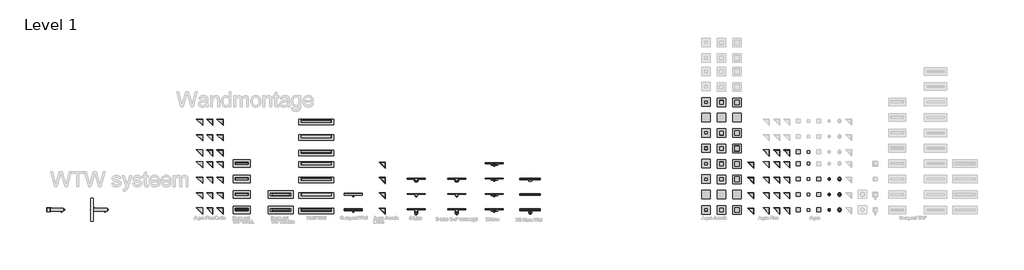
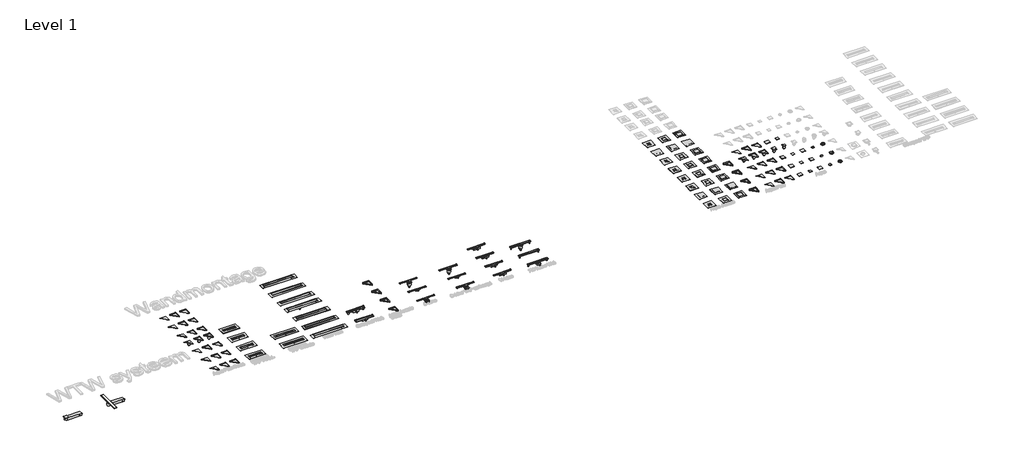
# One storey, part 1 of 23: 129 sanitary terminals, 5 coverings.
"""IFC4 building model written with IfcOpenShell, lengths in millimetres."""

from ifc_helpers import new_model, si_unit, origin, place, context, project, spatial, transform, mapped, element, save
from components import covering_52c8488e, covering_6938fe76, sanitary_terminal_5b34698b, sanitary_terminal_2ebfcd1c, sanitary_terminal_eb8b4586, sanitary_terminal_f8d560c6, sanitary_terminal_9a77729b, sanitary_terminal_fcf2dfa3, sanitary_terminal_2194107e, sanitary_terminal_dfeab300, sanitary_terminal_ecf4810a, sanitary_terminal_5c7f7aa6, sanitary_terminal_e52f65bd, sanitary_terminal_4a5be464, sanitary_terminal_dddee02a, sanitary_terminal_49c4bee3, sanitary_terminal_14ebe62b, sanitary_terminal_cf954fec, sanitary_terminal_cd1ec674, black_glass_10x10_94a9755f, black_glass_15x15_4ec12fde, black_glass_20x20_2d4f7b62, compact_taf_wall_cdf960c3, compact_taf_wall_d19b2d83, compact_taf_wall_0f2e0b1c, compact_taf_wall_d03a32f8, compact_wall_94ad205f, compact_wall_831ec387, m_line_c0a41354, m_line_9a3da5f7, m2_trap_body_7347115e, multi_taf_wall_horizontal_outlet_high_50mm_fefc41ae, multi_taf_wall_horizontal_outlet_low_40mm_08ca72b8, s_line_b4ae6951, s_line_high_d0269925, tile_10x10_495e2d9a, tile_15x15_625d1f21, tile_20x20_1db265bf, wtw_aqua_157d25cd, wtw_multi_011bf3f1, xs_nano_wall_a90b67c6, xs_nano_wall_with_m2_vertical_outlet_9d345bf4

model = new_model("IFC4")

# Units and contexts
model_context = context("Model", 3, world=origin())
ifc_project = project(units=[si_unit("LENGTHUNIT", "METRE", prefix="MILLI")], contexts=[model_context])

# Site, building, storey
site = spatial("IfcSite", under=ifc_project)
building = spatial("IfcBuilding", under=site)
storey = spatial("IfcBuildingStorey", under=building, Name="Level 1", Elevation=0.0)

# Coverings
placement = place(None, origin())
covering_shape = covering_52c8488e(model_context)
element("IfcCovering", 1, ObjectType="Z_DO_NOT_USE_NLRS_PF_52_UN_Extension Set_Easydrain : NLRS_PLF_52_UN_Easy Drain verlengset_Easydrain", at=placement, inside=storey, context=model_context, shape_type="MappedRepresentation", body=[
    mapped(covering_shape, transform((8171.8477418, 7700.0, 0.0), x_axis=(1.0, 0.0, 0.0), y_axis=(0.0, 1.0, 0.0), z_axis=(0.0, 0.0, 1.0))),
])
element("IfcCovering", 2, ObjectType="Z_DO_NOT_USE_NLRS_PF_52_UN_Extension Set_Easydrain : NLRS_PLF_52_UN_Easy Drain verlengset_Easydrain", at=placement, inside=storey, context=model_context, shape_type="MappedRepresentation", body=[
    mapped(covering_shape, transform((8171.8477418, 8300.0, 0.0), x_axis=(1.0, 0.0, 0.0), y_axis=(0.0, 1.0, 0.0), z_axis=(0.0, 0.0, 1.0))),
])
element("IfcCovering", 3, ObjectType="Z_DO_NOT_USE_NLRS_PF_52_UN_Extension Set_Easydrain : NLRS_PLF_52_UN_Easy Drain verlengset_Easydrain", at=placement, inside=storey, context=model_context, shape_type="MappedRepresentation", body=[
    mapped(covering_shape, transform((8171.8477418, 8900.0, 0.0), x_axis=(1.0, 0.0, 0.0), y_axis=(0.0, 1.0, 0.0), z_axis=(0.0, 0.0, 1.0))),
])
element("IfcCovering", 4, ObjectType="Z_DO_NOT_USE_NLRS_PF_52_UN_Extension Set_Easydrain : NLRS_PLF_52_UN_Easy Drain verlengset_Easydrain", at=placement, inside=storey, context=model_context, shape_type="MappedRepresentation", body=[
    mapped(covering_shape, transform((8171.8477418, 9500.0, 0.0), x_axis=(1.0, 0.0, 0.0), y_axis=(0.0, 1.0, 0.0), z_axis=(0.0, 0.0, 1.0))),
])
covering_2_shape = covering_6938fe76(model_context)
element("IfcCovering", 5, ObjectType="Z_DO_NOT_USE_NLRS_PF_52_UN_Multi Grate_Easydrain : 1 - Fixt", at=placement, inside=storey, context=model_context, shape_type="MappedRepresentation", body=[
    mapped(covering_2_shape, transform((2565.0, 7700.0, 70.0), x_axis=(0.0, 1.0, 0.0), y_axis=(-1.0, 0.0, 0.0), z_axis=(0.0, 0.0, 1.0))),
])

# Sanitary terminals
sanitary_terminal_shape = sanitary_terminal_5b34698b(model_context)
element("IfcSanitaryTerminal", 6, ObjectType="NLRS_PF_52_UN_Aqua Jewels Delta_in_uitloop_Easydrain : Aqua Jewels Delta zijuitloop hoog 50mm, zij-ingang 40mm", at=placement, inside=storey, context=model_context, shape_type="MappedRepresentation", body=[
    mapped(sanitary_terminal_shape, transform((28300.0, 8900.0, 0.0), x_axis=(1.0, 0.0, 0.0), y_axis=(0.0, 1.0, 0.0), z_axis=(0.0, 0.0, 1.0))),
])
element("IfcSanitaryTerminal", 7, ObjectType="NLRS_PF_52_UN_Aqua Jewels Delta_in_uitloop_Easydrain : Aqua Jewels Delta zijuitloop hoog 50mm, zij-ingang 40mm", at=placement, inside=storey, context=model_context, shape_type="MappedRepresentation", body=[
    mapped(sanitary_terminal_shape, transform((13940.0, 8900.0, 0.0), x_axis=(1.0, 0.0, 0.0), y_axis=(0.0, 1.0, 0.0), z_axis=(0.0, 0.0, 1.0))),
])
element("IfcSanitaryTerminal", 8, ObjectType="NLRS_PF_52_UN_Aqua Jewels Delta_uitloop_Easydrain : Aqua Jewels Delta horizontal outlet low 40mm", at=placement, inside=storey, context=model_context, shape_type="MappedRepresentation", body=[
    mapped(sanitary_terminal_shape, transform((28300.0, 7700.0, 0.0), x_axis=(1.0, 0.0, 0.0), y_axis=(0.0, 1.0, 0.0), z_axis=(0.0, 0.0, 1.0))),
])
element("IfcSanitaryTerminal", 9, ObjectType="NLRS_PF_52_UN_Aqua Jewels Delta_uitloop_Easydrain : Aqua Jewels Delta horizontal outlet low 40mm", at=placement, inside=storey, context=model_context, shape_type="MappedRepresentation", body=[
    mapped(sanitary_terminal_shape, transform((13940.0, 7700.0, 0.0), x_axis=(1.0, 0.0, 0.0), y_axis=(0.0, 1.0, 0.0), z_axis=(0.0, 0.0, 1.0))),
])
sanitary_terminal_2_shape = sanitary_terminal_2ebfcd1c(model_context)
element("IfcSanitaryTerminal", 10, ObjectType="NLRS_PF_52_UN_Aqua Plus Delta_in_uitloop_Easydrain : Aqua Plus Delta onderuitloop 50mm, zij-ingang 40mm", at=placement, inside=storey, context=model_context, shape_type="MappedRepresentation", body=[
    mapped(sanitary_terminal_2_shape, transform((6800.0, 10560.0, 0.0), x_axis=(1.0, 0.0, 0.0), y_axis=(0.0, 1.0, 0.0), z_axis=(0.0, 0.0, 1.0))),
])
element("IfcSanitaryTerminal", 11, ObjectType="NLRS_PF_52_UN_Aqua Plus Delta_in_uitloop_Easydrain : Aqua Plus Delta onderuitloop 50mm, zij-ingang 50mm", at=placement, inside=storey, context=model_context, shape_type="MappedRepresentation", body=[
    mapped(sanitary_terminal_2_shape, transform((6800.0, 11160.0, 0.0), x_axis=(1.0, 0.0, 0.0), y_axis=(0.0, 1.0, 0.0), z_axis=(0.0, 0.0, 1.0))),
])
element("IfcSanitaryTerminal", 12, ObjectType="NLRS_PF_52_UN_Aqua Plus Delta_in_uitloop_Easydrain : Aqua Plus Delta zijuitloop hoog 50mm, zij-ingang 40mm", at=placement, inside=storey, context=model_context, shape_type="MappedRepresentation", body=[
    mapped(sanitary_terminal_2_shape, transform((28900.0, 9960.0, 0.0), x_axis=(1.0, 0.0, 0.0), y_axis=(0.0, 1.0, 0.0), z_axis=(0.0, 0.0, 1.0))),
])
element("IfcSanitaryTerminal", 13, ObjectType="NLRS_PF_52_UN_Aqua Plus Delta_in_uitloop_Easydrain : Aqua Plus Delta zijuitloop hoog 50mm, zij-ingang 40mm", at=placement, inside=storey, context=model_context, shape_type="MappedRepresentation", body=[
    mapped(sanitary_terminal_2_shape, transform((6800.0, 9960.0, 0.0), x_axis=(1.0, 0.0, 0.0), y_axis=(0.0, 1.0, 0.0), z_axis=(0.0, 0.0, 1.0))),
])
sanitary_terminal_3_shape = sanitary_terminal_eb8b4586(model_context)
element("IfcSanitaryTerminal", 14, ObjectType="NLRS_PF_52_UN_Aqua Plus Quattro_in_uitloop_Easydrain : Aqua Plus Quattro zijuitloop hoog 50mm, zij-ingang 40mm", at=placement, inside=storey, context=model_context, shape_type="MappedRepresentation", body=[
    mapped(sanitary_terminal_3_shape, transform((30100.0, 9960.0, 0.0), x_axis=(1.0, 0.0, 0.0), y_axis=(0.0, 1.0, 0.0), z_axis=(0.0, 0.0, 1.0))),
])
sanitary_terminal_4_shape = sanitary_terminal_f8d560c6(model_context)
element("IfcSanitaryTerminal", 15, ObjectType="NLRS_PF_52_UN_Aqua Quattro_in_uitloop_Easydrain : Aqua Quattro zijuitloop hoog 50mm, zij-ingang 40mm", at=placement, inside=storey, context=model_context, shape_type="MappedRepresentation", body=[
    mapped(sanitary_terminal_4_shape, transform((30500.0, 9960.0, 0.0), x_axis=(1.0, 0.0, 0.0), y_axis=(0.0, 1.0, 0.0), z_axis=(0.0, 0.0, 1.0))),
])
sanitary_terminal_5_shape = sanitary_terminal_9a77729b(model_context)
element("IfcSanitaryTerminal", 16, ObjectType="NLRS_PF_52_UN_Compact TAF Modulo Design_Easydrain : Compact TAF Modulo Design Z4", at=placement, inside=storey, context=model_context, shape_type="MappedRepresentation", body=[
    mapped(sanitary_terminal_5_shape, transform((9770.0, 7700.0, 0.0), x_axis=(1.0, 0.0, 0.0), y_axis=(0.0, 1.0, 0.0), z_axis=(0.0, 0.0, 1.0))),
])
sanitary_terminal_6_shape = sanitary_terminal_fcf2dfa3(model_context)
element("IfcSanitaryTerminal", 17, ObjectType="NLRS_PF_52_UN_Multi TAF Wall in_uitloop_Easydrain : Multi TAF Wall onderuitloop 50mm, zij-ingang 50mm", at=placement, inside=storey, context=model_context, shape_type="MappedRepresentation", body=[
    mapped(sanitary_terminal_6_shape, transform((10950.0, 11160.0, 0.0), x_axis=(1.0, 0.0, 0.0), y_axis=(0.0, 1.0, 0.0), z_axis=(0.0, 0.0, 1.0))),
])
element("IfcSanitaryTerminal", 18, ObjectType="NLRS_PF_52_UN_Multi TAF Wall in_uitloop_Easydrain : Multi TAF Wall zijuitloop hoog 50mm, zij-ingang 40mm", at=placement, inside=storey, context=model_context, shape_type="MappedRepresentation", body=[
    mapped(sanitary_terminal_6_shape, transform((10950.0, 9960.0, 0.0), x_axis=(1.0, 0.0, 0.0), y_axis=(0.0, 1.0, 0.0), z_axis=(0.0, 0.0, 1.0))),
])
sanitary_terminal_7_shape = sanitary_terminal_2194107e(model_context)
element("IfcSanitaryTerminal", 19, ObjectType="NLRS_PF_52_UN_S-Line TAF High_Easydrain : S-Line High met M2 sifonhuis onderuitloop", at=placement, inside=storey, context=model_context, shape_type="MappedRepresentation", body=[
    mapped(sanitary_terminal_7_shape, transform((16780.0, 8900.0, 0.0), x_axis=(1.0, 0.0, 0.0), y_axis=(0.0, 1.0, 0.0), z_axis=(0.0, 0.0, 1.0))),
])
element("IfcSanitaryTerminal", 20, ObjectType="NLRS_PF_52_UN_S-Line TAF High_Easydrain : S-Line High met M2 ondiep sifonhuis", at=placement, inside=storey, context=model_context, shape_type="MappedRepresentation", body=[
    mapped(sanitary_terminal_7_shape, transform((16780.0, 8300.0, 0.0), x_axis=(1.0, 0.0, 0.0), y_axis=(0.0, 1.0, 0.0), z_axis=(0.0, 0.0, 1.0))),
])
sanitary_terminal_8_shape = sanitary_terminal_dfeab300(model_context)
element("IfcSanitaryTerminal", 21, ObjectType="NLRS_PF_52_UN_S-Line_Easydrain : S-Line met M2 sifonhuis onderuitloop", at=placement, inside=storey, context=model_context, shape_type="MappedRepresentation", body=[
    mapped(sanitary_terminal_8_shape, transform((15200.0, 8900.0, 0.0), x_axis=(1.0, 0.0, 0.0), y_axis=(0.0, 1.0, 0.0), z_axis=(0.0, 0.0, 1.0))),
])
element("IfcSanitaryTerminal", 22, ObjectType="NLRS_PF_52_UN_S-Line_Easydrain : S-Line met M2 ondiep sifonhuis", at=placement, inside=storey, context=model_context, shape_type="MappedRepresentation", body=[
    mapped(sanitary_terminal_8_shape, transform((15200.0, 8300.0, 0.0), x_axis=(1.0, 0.0, 0.0), y_axis=(0.0, 1.0, 0.0), z_axis=(0.0, 0.0, 1.0))),
])
sanitary_terminal_9_shape = sanitary_terminal_ecf4810a(model_context)
element("IfcSanitaryTerminal", 23, ObjectType="NLRS_PF_52_UN_XS Nano Wall_Easydrain : XS Nano Wall with M2 flat siphon", at=placement, inside=storey, context=model_context, shape_type="MappedRepresentation", body=[
    mapped(sanitary_terminal_9_shape, transform((19646.2247244, 8300.0, 0.0), x_axis=(1.0, 0.0, 0.0), y_axis=(0.0, 1.0, 0.0), z_axis=(0.0, 0.0, 1.0))),
])
sanitary_terminal_10_shape = sanitary_terminal_5c7f7aa6(model_context)
element("IfcSanitaryTerminal", 24, ObjectType="NLRS_PF_52_UN_Aqua Plus Delta_in_uitloop_Easydrain : Aqua Plus Delta zijuitloop hoog 50mm, zij-ingang 40mm", at=placement, inside=storey, context=model_context, shape_type="MappedRepresentation", body=[
    mapped(sanitary_terminal_10_shape, transform((29300.0, 9960.0, 0.0), x_axis=(1.0, 0.0, 0.0), y_axis=(0.0, 1.0, 0.0), z_axis=(0.0, 0.0, 1.0))),
])
element("IfcSanitaryTerminal", 25, ObjectType="NLRS_PF_52_UN_Aqua Plus Delta_in_uitloop_Easydrain : Aqua Plus Delta zijuitloop hoog 50mm, zij-ingang 40mm", at=placement, inside=storey, context=model_context, shape_type="MappedRepresentation", body=[
    mapped(sanitary_terminal_10_shape, transform((7200.0, 9960.0, 0.0), x_axis=(1.0, 0.0, 0.0), y_axis=(0.0, 1.0, 0.0), z_axis=(0.0, 0.0, 1.0))),
])
element("IfcSanitaryTerminal", 26, ObjectType="NLRS_PF_52_UN_Aqua Plus Delta_in_uitloop_Easydrain : Aqua Plus Delta onderuitloop 50mm, zij-ingang 40mm", at=placement, inside=storey, context=model_context, shape_type="MappedRepresentation", body=[
    mapped(sanitary_terminal_10_shape, transform((7200.0, 10560.0, 0.0), x_axis=(1.0, 0.0, 0.0), y_axis=(0.0, 1.0, 0.0), z_axis=(0.0, 0.0, 1.0))),
])
element("IfcSanitaryTerminal", 27, ObjectType="NLRS_PF_52_UN_Aqua Plus Delta_in_uitloop_Easydrain : Aqua Plus Delta onderuitloop 50mm, zij-ingang 50mm", at=placement, inside=storey, context=model_context, shape_type="MappedRepresentation", body=[
    mapped(sanitary_terminal_10_shape, transform((7200.0, 11160.0, 0.0), x_axis=(1.0, 0.0, 0.0), y_axis=(0.0, 1.0, 0.0), z_axis=(0.0, 0.0, 1.0))),
])
element("IfcSanitaryTerminal", 28, ObjectType="NLRS_PF_52_UN_Aqua Plus Delta_in_uitloop_Easydrain : Aqua Plus Delta zijuitloop hoog 50mm, zij-ingang 40mm", at=placement, inside=storey, context=model_context, shape_type="MappedRepresentation", body=[
    mapped(sanitary_terminal_10_shape, transform((29700.0, 9960.0, 0.0), x_axis=(1.0, 0.0, 0.0), y_axis=(0.0, 1.0, 0.0), z_axis=(0.0, 0.0, 1.0))),
])
element("IfcSanitaryTerminal", 29, ObjectType="NLRS_PF_52_UN_Aqua Plus Delta_in_uitloop_Easydrain : Aqua Plus Delta zijuitloop hoog 50mm, zij-ingang 40mm", at=placement, inside=storey, context=model_context, shape_type="MappedRepresentation", body=[
    mapped(sanitary_terminal_10_shape, transform((7600.0, 9960.0, 0.0), x_axis=(1.0, 0.0, 0.0), y_axis=(0.0, 1.0, 0.0), z_axis=(0.0, 0.0, 1.0))),
])
element("IfcSanitaryTerminal", 30, ObjectType="NLRS_PF_52_UN_Aqua Plus Delta_in_uitloop_Easydrain : Aqua Plus Delta onderuitloop 50mm, zij-ingang 40mm", at=placement, inside=storey, context=model_context, shape_type="MappedRepresentation", body=[
    mapped(sanitary_terminal_10_shape, transform((7600.0, 10560.0, 0.0), x_axis=(1.0, 0.0, 0.0), y_axis=(0.0, 1.0, 0.0), z_axis=(0.0, 0.0, 1.0))),
])
element("IfcSanitaryTerminal", 31, ObjectType="NLRS_PF_52_UN_Aqua Plus Delta_in_uitloop_Easydrain : Aqua Plus Delta onderuitloop 50mm, zij-ingang 50mm", at=placement, inside=storey, context=model_context, shape_type="MappedRepresentation", body=[
    mapped(sanitary_terminal_10_shape, transform((7600.0, 11160.0, 0.0), x_axis=(1.0, 0.0, 0.0), y_axis=(0.0, 1.0, 0.0), z_axis=(0.0, 0.0, 1.0))),
])
sanitary_terminal_11_shape = sanitary_terminal_e52f65bd(model_context)
element("IfcSanitaryTerminal", 32, ObjectType="NLRS_PF_52_UN_Compact TAF Modulo Design_Easydrain : Compact TAF Modulo Design Z4", at=placement, inside=storey, context=model_context, shape_type="MappedRepresentation", body=[
    mapped(sanitary_terminal_11_shape, transform((9770.0, 8300.0, 0.0), x_axis=(1.0, 0.0, 0.0), y_axis=(0.0, 1.0, 0.0), z_axis=(0.0, 0.0, 1.0))),
])
sanitary_terminal_12_shape = sanitary_terminal_4a5be464(model_context)
element("IfcSanitaryTerminal", 33, ObjectType="NLRS_PF_52_UN_Multi TAF Wall in_uitloop_Easydrain : Multi TAF Wall onderuitloop 50mm, zij-ingang 40mm", at=placement, inside=storey, context=model_context, shape_type="MappedRepresentation", body=[
    mapped(sanitary_terminal_12_shape, transform((10950.0, 10560.0, 0.0), x_axis=(1.0, 0.0, 0.0), y_axis=(0.0, 1.0, 0.0), z_axis=(0.0, 0.0, 1.0))),
])
sanitary_terminal_13_shape = sanitary_terminal_dddee02a(model_context)
element("IfcSanitaryTerminal", 34, ObjectType="NLRS_PF_52_UN_Aqua Jewels Delta_in_uitloop_Easydrain : Aqua Jewels Delta zijuitloop hoog 50mm, zij-ingang 40mm", at=placement, inside=storey, context=model_context, shape_type="MappedRepresentation", body=[
    mapped(sanitary_terminal_13_shape, transform((28300.0, 9500.0, 0.0), x_axis=(1.0, 0.0, 0.0), y_axis=(0.0, 1.0, 0.0), z_axis=(0.0, 0.0, 1.0))),
])
element("IfcSanitaryTerminal", 35, ObjectType="NLRS_PF_52_UN_Aqua Jewels Delta_in_uitloop_Easydrain : Aqua Jewels Delta zijuitloop hoog 50mm, zij-ingang 40mm", at=placement, inside=storey, context=model_context, shape_type="MappedRepresentation", body=[
    mapped(sanitary_terminal_13_shape, transform((13940.0, 9500.0, 0.0), x_axis=(1.0, 0.0, 0.0), y_axis=(0.0, 1.0, 0.0), z_axis=(0.0, 0.0, 1.0))),
])
element("IfcSanitaryTerminal", 36, ObjectType="NLRS_PF_52_UN_Aqua Jewels Delta_uitloop_Easydrain : Aqua Jewels Delta horizontal outlet low 40mm", at=placement, inside=storey, context=model_context, shape_type="MappedRepresentation", body=[
    mapped(sanitary_terminal_13_shape, transform((28300.0, 8300.0, 0.0), x_axis=(1.0, 0.0, 0.0), y_axis=(0.0, 1.0, 0.0), z_axis=(0.0, 0.0, 1.0))),
])
element("IfcSanitaryTerminal", 37, ObjectType="NLRS_PF_52_UN_Aqua Jewels Delta_uitloop_Easydrain : Aqua Jewels Delta horizontal outlet low 40mm", at=placement, inside=storey, context=model_context, shape_type="MappedRepresentation", body=[
    mapped(sanitary_terminal_13_shape, transform((13940.0, 8300.0, 0.0), x_axis=(1.0, 0.0, 0.0), y_axis=(0.0, 1.0, 0.0), z_axis=(0.0, 0.0, 1.0))),
])
sanitary_terminal_14_shape = sanitary_terminal_49c4bee3(model_context)
element("IfcSanitaryTerminal", 38, ObjectType="Z_DO_NOT_USE_NLRS_PF_52_UN_Multi sifon uitloop_Easydrain : onderuitloop 50mm", at=placement, inside=storey, context=model_context, shape_type="MappedRepresentation", body=[
    mapped(sanitary_terminal_14_shape, transform((28900.0, 9500.0, -10.0), x_axis=(1.0, 0.0, 0.0), y_axis=(0.0, 1.0, 0.0), z_axis=(0.0, 0.0, 1.0))),
])
element("IfcSanitaryTerminal", 39, ObjectType="Z_DO_NOT_USE_NLRS_PF_52_UN_Multi sifon uitloop_Easydrain : onderuitloop 50mm", at=placement, inside=storey, context=model_context, shape_type="MappedRepresentation", body=[
    mapped(sanitary_terminal_14_shape, transform((29300.0, 9500.0, -20.0), x_axis=(1.0, 0.0, 0.0), y_axis=(0.0, 1.0, 0.0), z_axis=(0.0, 0.0, 1.0))),
])
element("IfcSanitaryTerminal", 40, ObjectType="Z_DO_NOT_USE_NLRS_PF_52_UN_Multi sifon uitloop_Easydrain : onderuitloop 50mm", at=placement, inside=storey, context=model_context, shape_type="MappedRepresentation", body=[
    mapped(sanitary_terminal_14_shape, transform((29700.0, 9500.0, -20.0), x_axis=(1.0, 0.0, 0.0), y_axis=(0.0, 1.0, 0.0), z_axis=(0.0, 0.0, 1.0))),
])
element("IfcSanitaryTerminal", 41, ObjectType="Z_DO_NOT_USE_NLRS_PF_52_UN_Multi sifon uitloop_Easydrain : onderuitloop 50mm", at=placement, inside=storey, context=model_context, shape_type="MappedRepresentation", body=[
    mapped(sanitary_terminal_14_shape, transform((6800.0, 9500.0, -10.0), x_axis=(1.0, 0.0, 0.0), y_axis=(0.0, 1.0, 0.0), z_axis=(0.0, 0.0, 1.0))),
])
element("IfcSanitaryTerminal", 42, ObjectType="Z_DO_NOT_USE_NLRS_PF_52_UN_Multi sifon uitloop_Easydrain : onderuitloop 50mm", at=placement, inside=storey, context=model_context, shape_type="MappedRepresentation", body=[
    mapped(sanitary_terminal_14_shape, transform((7200.0, 9500.0, -20.0), x_axis=(1.0, 0.0, 0.0), y_axis=(0.0, 1.0, 0.0), z_axis=(0.0, 0.0, 1.0))),
])
element("IfcSanitaryTerminal", 43, ObjectType="Z_DO_NOT_USE_NLRS_PF_52_UN_Multi sifon uitloop_Easydrain : onderuitloop 50mm", at=placement, inside=storey, context=model_context, shape_type="MappedRepresentation", body=[
    mapped(sanitary_terminal_14_shape, transform((7600.0, 9500.0, -20.0), x_axis=(1.0, 0.0, 0.0), y_axis=(0.0, 1.0, 0.0), z_axis=(0.0, 0.0, 1.0))),
])
element("IfcSanitaryTerminal", 44, ObjectType="Z_DO_NOT_USE_NLRS_PF_52_UN_Multi sifon uitloop_Easydrain : onderuitloop 50mm", at=placement, inside=storey, context=model_context, shape_type="MappedRepresentation", body=[
    mapped(sanitary_terminal_14_shape, transform((30100.0, 9500.0, -20.5), x_axis=(1.0, 0.0, 0.0), y_axis=(0.0, 1.0, 0.0), z_axis=(0.0, 0.0, 1.0))),
])
element("IfcSanitaryTerminal", 45, ObjectType="Z_DO_NOT_USE_NLRS_PF_52_UN_Multi sifon uitloop_Easydrain : onderuitloop 50mm", at=placement, inside=storey, context=model_context, shape_type="MappedRepresentation", body=[
    mapped(sanitary_terminal_14_shape, transform((30500.0, 9500.0, -11.0), x_axis=(1.0, 0.0, 0.0), y_axis=(0.0, 1.0, 0.0), z_axis=(0.0, 0.0, 1.0))),
])
element("IfcSanitaryTerminal", 46, ObjectType="Z_DO_NOT_USE_NLRS_PF_52_UN_Multi sifon uitloop_Easydrain : onderuitloop 50mm", at=placement, inside=storey, context=model_context, shape_type="MappedRepresentation", body=[
    mapped(sanitary_terminal_14_shape, transform((11213.5540688, 9500.0, -27.0), x_axis=(1.0, 0.0, 0.0), y_axis=(0.0, 1.0, 0.0), z_axis=(0.0, 0.0, 1.0))),
])
element("IfcSanitaryTerminal", 47, ObjectType="NLRS_PF_52_UN_Aqua Plus Delta_uitloop_Easydrain : Aqua Plus Delta horizontal outlet high 50mm", at=placement, inside=storey, context=model_context, shape_type="MappedRepresentation", body=[
    mapped(sanitary_terminal_2_shape, transform((28900.0, 8900.0, 0.0), x_axis=(1.0, 0.0, 0.0), y_axis=(0.0, 1.0, 0.0), z_axis=(0.0, 0.0, 1.0))),
])
element("IfcSanitaryTerminal", 48, ObjectType="NLRS_PF_52_UN_Aqua Plus Delta_uitloop_Easydrain : Aqua Plus Delta horizontal outlet high 50mm", at=placement, inside=storey, context=model_context, shape_type="MappedRepresentation", body=[
    mapped(sanitary_terminal_2_shape, transform((6800.0, 8900.0, 0.0), x_axis=(1.0, 0.0, 0.0), y_axis=(0.0, 1.0, 0.0), z_axis=(0.0, 0.0, 1.0))),
])
element("IfcSanitaryTerminal", 49, ObjectType="NLRS_PF_52_UN_Aqua Plus Delta_uitloop_Easydrain : Aqua Plus Delta horizontal outlet high 50mm", at=placement, inside=storey, context=model_context, shape_type="MappedRepresentation", body=[
    mapped(sanitary_terminal_10_shape, transform((29300.0, 8900.0, 0.0), x_axis=(1.0, 0.0, 0.0), y_axis=(0.0, 1.0, 0.0), z_axis=(0.0, 0.0, 1.0))),
])
element("IfcSanitaryTerminal", 50, ObjectType="NLRS_PF_52_UN_Aqua Plus Delta_uitloop_Easydrain : Aqua Plus Delta horizontal outlet high 50mm", at=placement, inside=storey, context=model_context, shape_type="MappedRepresentation", body=[
    mapped(sanitary_terminal_10_shape, transform((7200.0, 8900.0, 0.0), x_axis=(1.0, 0.0, 0.0), y_axis=(0.0, 1.0, 0.0), z_axis=(0.0, 0.0, 1.0))),
])
element("IfcSanitaryTerminal", 51, ObjectType="NLRS_PF_52_UN_Aqua Plus Delta_uitloop_Easydrain : Aqua Plus Delta horizontal outlet high 50mm", at=placement, inside=storey, context=model_context, shape_type="MappedRepresentation", body=[
    mapped(sanitary_terminal_10_shape, transform((29700.0, 8900.0, 0.0), x_axis=(1.0, 0.0, 0.0), y_axis=(0.0, 1.0, 0.0), z_axis=(0.0, 0.0, 1.0))),
])
element("IfcSanitaryTerminal", 52, ObjectType="NLRS_PF_52_UN_Aqua Plus Delta_uitloop_Easydrain : Aqua Plus Delta horizontal outlet high 50mm", at=placement, inside=storey, context=model_context, shape_type="MappedRepresentation", body=[
    mapped(sanitary_terminal_10_shape, transform((7600.0, 8900.0, 0.0), x_axis=(1.0, 0.0, 0.0), y_axis=(0.0, 1.0, 0.0), z_axis=(0.0, 0.0, 1.0))),
])
element("IfcSanitaryTerminal", 53, ObjectType="NLRS_PF_52_UN_Aqua Plus Delta_uitloop_Easydrain : Aqua Plus Delta horizontal outlet low 40mm", at=placement, inside=storey, context=model_context, shape_type="MappedRepresentation", body=[
    mapped(sanitary_terminal_2_shape, transform((28900.0, 7700.0, 0.0), x_axis=(1.0, 0.0, 0.0), y_axis=(0.0, 1.0, 0.0), z_axis=(0.0, 0.0, 1.0))),
])
element("IfcSanitaryTerminal", 54, ObjectType="NLRS_PF_52_UN_Aqua Plus Delta_uitloop_Easydrain : Aqua Plus Delta horizontal outlet low 40mm", at=placement, inside=storey, context=model_context, shape_type="MappedRepresentation", body=[
    mapped(sanitary_terminal_2_shape, transform((6800.0, 7700.0, 0.0), x_axis=(1.0, 0.0, 0.0), y_axis=(0.0, 1.0, 0.0), z_axis=(0.0, 0.0, 1.0))),
])
element("IfcSanitaryTerminal", 55, ObjectType="NLRS_PF_52_UN_Aqua Plus Delta_uitloop_Easydrain : Aqua Plus Delta horizontal outlet low 40mm", at=placement, inside=storey, context=model_context, shape_type="MappedRepresentation", body=[
    mapped(sanitary_terminal_10_shape, transform((29300.0, 7700.0, 0.0), x_axis=(1.0, 0.0, 0.0), y_axis=(0.0, 1.0, 0.0), z_axis=(0.0, 0.0, 1.0))),
])
element("IfcSanitaryTerminal", 56, ObjectType="NLRS_PF_52_UN_Aqua Plus Delta_uitloop_Easydrain : Aqua Plus Delta horizontal outlet low 40mm", at=placement, inside=storey, context=model_context, shape_type="MappedRepresentation", body=[
    mapped(sanitary_terminal_10_shape, transform((7200.0, 7700.0, 0.0), x_axis=(1.0, 0.0, 0.0), y_axis=(0.0, 1.0, 0.0), z_axis=(0.0, 0.0, 1.0))),
])
element("IfcSanitaryTerminal", 57, ObjectType="NLRS_PF_52_UN_Aqua Plus Delta_uitloop_Easydrain : Aqua Plus Delta horizontal outlet low 40mm", at=placement, inside=storey, context=model_context, shape_type="MappedRepresentation", body=[
    mapped(sanitary_terminal_10_shape, transform((29700.0, 7700.0, 0.0), x_axis=(1.0, 0.0, 0.0), y_axis=(0.0, 1.0, 0.0), z_axis=(0.0, 0.0, 1.0))),
])
element("IfcSanitaryTerminal", 58, ObjectType="NLRS_PF_52_UN_Aqua Plus Delta_uitloop_Easydrain : Aqua Plus Delta horizontal outlet low 40mm", at=placement, inside=storey, context=model_context, shape_type="MappedRepresentation", body=[
    mapped(sanitary_terminal_10_shape, transform((7600.0, 7700.0, 0.0), x_axis=(1.0, 0.0, 0.0), y_axis=(0.0, 1.0, 0.0), z_axis=(0.0, 0.0, 1.0))),
])
element("IfcSanitaryTerminal", 59, ObjectType="NLRS_PF_52_UN_Aqua Plus Delta_uitloop_Easydrain : Aqua Plus Delta horizontal outlet low 50mm", at=placement, inside=storey, context=model_context, shape_type="MappedRepresentation", body=[
    mapped(sanitary_terminal_2_shape, transform((28900.0, 8300.0, 0.0), x_axis=(1.0, 0.0, 0.0), y_axis=(0.0, 1.0, 0.0), z_axis=(0.0, 0.0, 1.0))),
])
element("IfcSanitaryTerminal", 60, ObjectType="NLRS_PF_52_UN_Aqua Plus Delta_uitloop_Easydrain : Aqua Plus Delta horizontal outlet low 50mm", at=placement, inside=storey, context=model_context, shape_type="MappedRepresentation", body=[
    mapped(sanitary_terminal_2_shape, transform((6800.0, 8300.0, 0.0), x_axis=(1.0, 0.0, 0.0), y_axis=(0.0, 1.0, 0.0), z_axis=(0.0, 0.0, 1.0))),
])
element("IfcSanitaryTerminal", 61, ObjectType="NLRS_PF_52_UN_Aqua Plus Delta_uitloop_Easydrain : Aqua Plus Delta horizontal outlet low 50mm", at=placement, inside=storey, context=model_context, shape_type="MappedRepresentation", body=[
    mapped(sanitary_terminal_10_shape, transform((29300.0, 8300.0, 0.0), x_axis=(1.0, 0.0, 0.0), y_axis=(0.0, 1.0, 0.0), z_axis=(0.0, 0.0, 1.0))),
])
element("IfcSanitaryTerminal", 62, ObjectType="NLRS_PF_52_UN_Aqua Plus Delta_uitloop_Easydrain : Aqua Plus Delta horizontal outlet low 50mm", at=placement, inside=storey, context=model_context, shape_type="MappedRepresentation", body=[
    mapped(sanitary_terminal_10_shape, transform((7200.0, 8300.0, 0.0), x_axis=(1.0, 0.0, 0.0), y_axis=(0.0, 1.0, 0.0), z_axis=(0.0, 0.0, 1.0))),
])
element("IfcSanitaryTerminal", 63, ObjectType="NLRS_PF_52_UN_Aqua Plus Delta_uitloop_Easydrain : Aqua Plus Delta horizontal outlet low 50mm", at=placement, inside=storey, context=model_context, shape_type="MappedRepresentation", body=[
    mapped(sanitary_terminal_10_shape, transform((29700.0, 8300.0, 0.0), x_axis=(1.0, 0.0, 0.0), y_axis=(0.0, 1.0, 0.0), z_axis=(0.0, 0.0, 1.0))),
])
element("IfcSanitaryTerminal", 64, ObjectType="NLRS_PF_52_UN_Aqua Plus Delta_uitloop_Easydrain : Aqua Plus Delta horizontal outlet low 50mm", at=placement, inside=storey, context=model_context, shape_type="MappedRepresentation", body=[
    mapped(sanitary_terminal_10_shape, transform((7600.0, 8300.0, 0.0), x_axis=(1.0, 0.0, 0.0), y_axis=(0.0, 1.0, 0.0), z_axis=(0.0, 0.0, 1.0))),
])
element("IfcSanitaryTerminal", 65, ObjectType="NLRS_PF_52_UN_Aqua Plus Delta_uitloop_Easydrain : Aqua Plus Delta vertical outlet 50mm", at=placement, inside=storey, context=model_context, shape_type="MappedRepresentation", body=[
    mapped(sanitary_terminal_2_shape, transform((28900.0, 9500.0, 0.0), x_axis=(1.0, 0.0, 0.0), y_axis=(0.0, 1.0, 0.0), z_axis=(0.0, 0.0, 1.0))),
])
element("IfcSanitaryTerminal", 66, ObjectType="NLRS_PF_52_UN_Aqua Plus Delta_uitloop_Easydrain : Aqua Plus Delta vertical outlet 50mm", at=placement, inside=storey, context=model_context, shape_type="MappedRepresentation", body=[
    mapped(sanitary_terminal_2_shape, transform((6800.0, 9500.0, 0.0), x_axis=(1.0, 0.0, 0.0), y_axis=(0.0, 1.0, 0.0), z_axis=(0.0, 0.0, 1.0))),
])
element("IfcSanitaryTerminal", 67, ObjectType="NLRS_PF_52_UN_Aqua Plus Delta_uitloop_Easydrain : Aqua Plus Delta vertical outlet 50mm", at=placement, inside=storey, context=model_context, shape_type="MappedRepresentation", body=[
    mapped(sanitary_terminal_10_shape, transform((29300.0, 9500.0, 0.0), x_axis=(1.0, 0.0, 0.0), y_axis=(0.0, 1.0, 0.0), z_axis=(0.0, 0.0, 1.0))),
])
element("IfcSanitaryTerminal", 68, ObjectType="NLRS_PF_52_UN_Aqua Plus Delta_uitloop_Easydrain : Aqua Plus Delta vertical outlet 50mm", at=placement, inside=storey, context=model_context, shape_type="MappedRepresentation", body=[
    mapped(sanitary_terminal_10_shape, transform((7200.0, 9500.0, 0.0), x_axis=(1.0, 0.0, 0.0), y_axis=(0.0, 1.0, 0.0), z_axis=(0.0, 0.0, 1.0))),
])
element("IfcSanitaryTerminal", 69, ObjectType="NLRS_PF_52_UN_Aqua Plus Delta_uitloop_Easydrain : Aqua Plus Delta vertical outlet 50mm", at=placement, inside=storey, context=model_context, shape_type="MappedRepresentation", body=[
    mapped(sanitary_terminal_10_shape, transform((29700.0, 9500.0, 0.0), x_axis=(1.0, 0.0, 0.0), y_axis=(0.0, 1.0, 0.0), z_axis=(0.0, 0.0, 1.0))),
])
element("IfcSanitaryTerminal", 70, ObjectType="NLRS_PF_52_UN_Aqua Plus Delta_uitloop_Easydrain : Aqua Plus Delta vertical outlet 50mm", at=placement, inside=storey, context=model_context, shape_type="MappedRepresentation", body=[
    mapped(sanitary_terminal_10_shape, transform((7600.0, 9500.0, 0.0), x_axis=(1.0, 0.0, 0.0), y_axis=(0.0, 1.0, 0.0), z_axis=(0.0, 0.0, 1.0))),
])
element("IfcSanitaryTerminal", 71, ObjectType="NLRS_PF_52_UN_Aqua Plus Quattro_uitloop_Easydrain : Aqua Plus Quattro Horizontal Outlet Low 40mm", at=placement, inside=storey, context=model_context, shape_type="MappedRepresentation", body=[
    mapped(sanitary_terminal_3_shape, transform((30100.0, 7700.0, 0.0), x_axis=(1.0, 0.0, 0.0), y_axis=(0.0, 1.0, 0.0), z_axis=(0.0, 0.0, 1.0))),
])
element("IfcSanitaryTerminal", 72, ObjectType="NLRS_PF_52_UN_Aqua Plus Quattro_uitloop_Easydrain : Aqua Plus Quattro Horizontal outlet Low 50mm", at=placement, inside=storey, context=model_context, shape_type="MappedRepresentation", body=[
    mapped(sanitary_terminal_3_shape, transform((30100.0, 8300.0, 0.0), x_axis=(1.0, 0.0, 0.0), y_axis=(0.0, 1.0, 0.0), z_axis=(0.0, 0.0, 1.0))),
])
element("IfcSanitaryTerminal", 73, ObjectType="NLRS_PF_52_UN_Aqua Plus Quattro_uitloop_Easydrain : Aqua Plus Quattro Horizontal outlet high 50mm", at=placement, inside=storey, context=model_context, shape_type="MappedRepresentation", body=[
    mapped(sanitary_terminal_3_shape, transform((30100.0, 8900.0, 0.0), x_axis=(1.0, 0.0, 0.0), y_axis=(0.0, 1.0, 0.0), z_axis=(0.0, 0.0, 1.0))),
])
element("IfcSanitaryTerminal", 74, ObjectType="NLRS_PF_52_UN_Aqua Plus Quattro_uitloop_Easydrain : Aqua Plus Quattro Vertical Outlet 50mm", at=placement, inside=storey, context=model_context, shape_type="MappedRepresentation", body=[
    mapped(sanitary_terminal_3_shape, transform((30100.0, 9500.0, 0.0), x_axis=(1.0, 0.0, 0.0), y_axis=(0.0, 1.0, 0.0), z_axis=(0.0, 0.0, 1.0))),
])
element("IfcSanitaryTerminal", 75, ObjectType="NLRS_PF_52_UN_Aqua Quattro_uitloop_Easydrain : Aqua Quattro Horizontal Outlet Low 40mm", at=placement, inside=storey, context=model_context, shape_type="MappedRepresentation", body=[
    mapped(sanitary_terminal_4_shape, transform((30500.0, 7700.0, 0.0), x_axis=(1.0, 0.0, 0.0), y_axis=(0.0, 1.0, 0.0), z_axis=(0.0, 0.0, 1.0))),
])
sanitary_terminal_15_shape = sanitary_terminal_14ebe62b(model_context)
element("IfcSanitaryTerminal", 76, ObjectType="NLRS_PF_52_UN_Aqua Quattro_uitloop_Easydrain : Aqua Quattro Horizontal Outlet Low 40mm", at=placement, inside=storey, context=model_context, shape_type="MappedRepresentation", body=[
    mapped(sanitary_terminal_15_shape, transform((30900.0, 7700.0, 0.0), x_axis=(1.0, 0.0, 0.0), y_axis=(0.0, 1.0, 0.0), z_axis=(0.0, 0.0, 1.0))),
])
element("IfcSanitaryTerminal", 77, ObjectType="NLRS_PF_52_UN_Aqua Quattro_uitloop_Easydrain : Aqua Quattro Horizontal outlet Low 50mm", at=placement, inside=storey, context=model_context, shape_type="MappedRepresentation", body=[
    mapped(sanitary_terminal_4_shape, transform((30500.0, 8300.0, 0.0), x_axis=(1.0, 0.0, 0.0), y_axis=(0.0, 1.0, 0.0), z_axis=(0.0, 0.0, 1.0))),
])
element("IfcSanitaryTerminal", 78, ObjectType="NLRS_PF_52_UN_Aqua Quattro_uitloop_Easydrain : Aqua Quattro Horizontal outlet Low 50mm", at=placement, inside=storey, context=model_context, shape_type="MappedRepresentation", body=[
    mapped(sanitary_terminal_15_shape, transform((30900.0, 8300.0, 0.0), x_axis=(1.0, 0.0, 0.0), y_axis=(0.0, 1.0, 0.0), z_axis=(0.0, 0.0, 1.0))),
])
element("IfcSanitaryTerminal", 79, ObjectType="NLRS_PF_52_UN_Aqua Quattro_uitloop_Easydrain : Aqua Quattro Horizontal outlet high 50mm", at=placement, inside=storey, context=model_context, shape_type="MappedRepresentation", body=[
    mapped(sanitary_terminal_4_shape, transform((30500.0, 8900.0, 0.0), x_axis=(1.0, 0.0, 0.0), y_axis=(0.0, 1.0, 0.0), z_axis=(0.0, 0.0, 1.0))),
])
element("IfcSanitaryTerminal", 80, ObjectType="NLRS_PF_52_UN_Aqua Quattro_uitloop_Easydrain : Aqua Quattro Horizontal outlet high 50mm", at=placement, inside=storey, context=model_context, shape_type="MappedRepresentation", body=[
    mapped(sanitary_terminal_15_shape, transform((30900.0, 8900.0, 0.0), x_axis=(1.0, 0.0, 0.0), y_axis=(0.0, 1.0, 0.0), z_axis=(0.0, 0.0, 1.0))),
])
element("IfcSanitaryTerminal", 81, ObjectType="NLRS_PF_52_UN_Aqua Quattro_uitloop_Easydrain : Aqua Quattro Vertical Outlet 50mm", at=placement, inside=storey, context=model_context, shape_type="MappedRepresentation", body=[
    mapped(sanitary_terminal_4_shape, transform((30500.0, 9500.0, 0.0), x_axis=(1.0, 0.0, 0.0), y_axis=(0.0, 1.0, 0.0), z_axis=(0.0, 0.0, 1.0))),
])
sanitary_terminal_16_shape = sanitary_terminal_cf954fec(model_context)
element("IfcSanitaryTerminal", 82, ObjectType="NLRS_PF_52_UN_Aqua Round_uitloop_Easydrain : Aqua Round Horizontal Outlet Low 40mm", at=placement, inside=storey, context=model_context, shape_type="MappedRepresentation", body=[
    mapped(sanitary_terminal_16_shape, transform((31300.0, 7700.0, 0.0), x_axis=(1.0, 0.0, 0.0), y_axis=(0.0, 1.0, 0.0), z_axis=(0.0, 0.0, 1.0))),
])
sanitary_terminal_17_shape = sanitary_terminal_cd1ec674(model_context)
element("IfcSanitaryTerminal", 83, ObjectType="NLRS_PF_52_UN_Aqua Round_uitloop_Easydrain : Aqua Round Horizontal Outlet Low 40mm", at=placement, inside=storey, context=model_context, shape_type="MappedRepresentation", body=[
    mapped(sanitary_terminal_17_shape, transform((31700.0, 7700.0, 0.0), x_axis=(1.0, 0.0, 0.0), y_axis=(0.0, 1.0, 0.0), z_axis=(0.0, 0.0, 1.0))),
])
element("IfcSanitaryTerminal", 84, ObjectType="NLRS_PF_52_UN_Aqua Round_uitloop_Easydrain : Aqua Round Horizontal outlet Low 50mm", at=placement, inside=storey, context=model_context, shape_type="MappedRepresentation", body=[
    mapped(sanitary_terminal_16_shape, transform((31300.0, 8300.0, 0.0), x_axis=(1.0, 0.0, 0.0), y_axis=(0.0, 1.0, 0.0), z_axis=(0.0, 0.0, 1.0))),
])
element("IfcSanitaryTerminal", 85, ObjectType="NLRS_PF_52_UN_Aqua Round_uitloop_Easydrain : Aqua Round Horizontal outlet Low 50mm", at=placement, inside=storey, context=model_context, shape_type="MappedRepresentation", body=[
    mapped(sanitary_terminal_17_shape, transform((31700.0, 8300.0, 0.0), x_axis=(1.0, 0.0, 0.0), y_axis=(0.0, 1.0, 0.0), z_axis=(0.0, 0.0, 1.0))),
])
element("IfcSanitaryTerminal", 86, ObjectType="NLRS_PF_52_UN_Aqua Round_uitloop_Easydrain : Aqua Round Horizontal outlet high 50mm", at=placement, inside=storey, context=model_context, shape_type="MappedRepresentation", body=[
    mapped(sanitary_terminal_16_shape, transform((31300.0, 8900.0, 0.0), x_axis=(1.0, 0.0, 0.0), y_axis=(0.0, 1.0, 0.0), z_axis=(0.0, 0.0, 1.0))),
])
element("IfcSanitaryTerminal", 87, ObjectType="NLRS_PF_52_UN_Aqua Round_uitloop_Easydrain : Aqua Round Horizontal outlet high 50mm", at=placement, inside=storey, context=model_context, shape_type="MappedRepresentation", body=[
    mapped(sanitary_terminal_17_shape, transform((31700.0, 8900.0, 0.0), x_axis=(1.0, 0.0, 0.0), y_axis=(0.0, 1.0, 0.0), z_axis=(0.0, 0.0, 1.0))),
])
black_glass_10x10_shape = black_glass_10x10_94a9755f(model_context)
element("IfcSanitaryTerminal", 88, ObjectType="Z_DO_NOT_USE_NLRS_PF_52_UN_Aqua Jewels Quattro Complete_Easydrain : Black Glass 10x10", at=placement, inside=storey, context=model_context, shape_type="MappedRepresentation", body=[
    mapped(black_glass_10x10_shape, transform((26500.0, 8900.0, 0.0), x_axis=(1.0, 0.0, 0.0), y_axis=(0.0, 1.0, 0.0), z_axis=(0.0, 0.0, 1.0))),
])
element("IfcSanitaryTerminal", 89, ObjectType="Z_DO_NOT_USE_NLRS_PF_52_UN_Aqua Jewels Quattro Complete_Easydrain : Black Glass 10x10", at=placement, inside=storey, context=model_context, shape_type="MappedRepresentation", body=[
    mapped(black_glass_10x10_shape, transform((26500.0, 11900.0, 0.0), x_axis=(1.0, 0.0, 0.0), y_axis=(0.0, 1.0, 0.0), z_axis=(0.0, 0.0, 1.0))),
])
black_glass_15x15_shape = black_glass_15x15_4ec12fde(model_context)
element("IfcSanitaryTerminal", 90, ObjectType="Z_DO_NOT_USE_NLRS_PF_52_UN_Aqua Jewels Quattro Complete_Easydrain : Black Glass 15x15", at=placement, inside=storey, context=model_context, shape_type="MappedRepresentation", body=[
    mapped(black_glass_15x15_shape, transform((27100.0, 8900.0, 0.0), x_axis=(1.0, 0.0, 0.0), y_axis=(0.0, 1.0, 0.0), z_axis=(0.0, 0.0, 1.0))),
])
element("IfcSanitaryTerminal", 91, ObjectType="Z_DO_NOT_USE_NLRS_PF_52_UN_Aqua Jewels Quattro Complete_Easydrain : Black Glass 15x15", at=placement, inside=storey, context=model_context, shape_type="MappedRepresentation", body=[
    mapped(black_glass_15x15_shape, transform((27100.0, 11900.0, 0.0), x_axis=(1.0, 0.0, 0.0), y_axis=(0.0, 1.0, 0.0), z_axis=(0.0, 0.0, 1.0))),
])
black_glass_20x20_shape = black_glass_20x20_2d4f7b62(model_context)
element("IfcSanitaryTerminal", 92, ObjectType="Z_DO_NOT_USE_NLRS_PF_52_UN_Aqua Jewels Quattro Complete_Easydrain : Black Glass 20x20", at=placement, inside=storey, context=model_context, shape_type="MappedRepresentation", body=[
    mapped(black_glass_20x20_shape, transform((27700.0, 8900.0, 0.0), x_axis=(1.0, 0.0, 0.0), y_axis=(0.0, 1.0, 0.0), z_axis=(0.0, 0.0, 1.0))),
])
element("IfcSanitaryTerminal", 93, ObjectType="Z_DO_NOT_USE_NLRS_PF_52_UN_Aqua Jewels Quattro Complete_Easydrain : Black Glass 20x20", at=placement, inside=storey, context=model_context, shape_type="MappedRepresentation", body=[
    mapped(black_glass_20x20_shape, transform((27700.0, 11900.0, 0.0), x_axis=(1.0, 0.0, 0.0), y_axis=(0.0, 1.0, 0.0), z_axis=(0.0, 0.0, 1.0))),
])
compact_taf_wall_shape = compact_taf_wall_cdf960c3(model_context)
element("IfcSanitaryTerminal", 94, ObjectType="NLRS_PF_52_UN_Compact TAF_Easydrain : Compact TAF Wall", at=placement, inside=storey, context=model_context, shape_type="MappedRepresentation", body=[
    mapped(compact_taf_wall_shape, transform((8404.3477418, 7700.0, 0.0), x_axis=(1.0, 0.0, 0.0), y_axis=(0.0, 1.0, 0.0), z_axis=(0.0, 0.0, 1.0))),
])
compact_taf_wall_2_shape = compact_taf_wall_d19b2d83(model_context)
element("IfcSanitaryTerminal", 95, ObjectType="NLRS_PF_52_UN_Compact TAF_Easydrain : Compact TAF Wall", at=placement, inside=storey, context=model_context, shape_type="MappedRepresentation", body=[
    mapped(compact_taf_wall_2_shape, transform((8404.3477418, 8300.0, 0.0), x_axis=(1.0, 0.0, 0.0), y_axis=(0.0, 1.0, 0.0), z_axis=(0.0, 0.0, 1.0))),
])
compact_taf_wall_3_shape = compact_taf_wall_0f2e0b1c(model_context)
element("IfcSanitaryTerminal", 96, ObjectType="NLRS_PF_52_UN_Compact TAF_Easydrain : Compact TAF Wall", at=placement, inside=storey, context=model_context, shape_type="MappedRepresentation", body=[
    mapped(compact_taf_wall_3_shape, transform((8404.3477418, 8900.0, 0.0), x_axis=(1.0, 0.0, 0.0), y_axis=(0.0, 1.0, 0.0), z_axis=(0.0, 0.0, 1.0))),
])
compact_taf_wall_4_shape = compact_taf_wall_d03a32f8(model_context)
element("IfcSanitaryTerminal", 97, ObjectType="NLRS_PF_52_UN_Compact TAF_Easydrain : Compact TAF Wall", at=placement, inside=storey, context=model_context, shape_type="MappedRepresentation", body=[
    mapped(compact_taf_wall_4_shape, transform((8404.3477418, 9500.0, 0.0), x_axis=(1.0, 0.0, 0.0), y_axis=(0.0, 1.0, 0.0), z_axis=(0.0, 0.0, 1.0))),
])
compact_wall_shape = compact_wall_94ad205f(model_context)
element("IfcSanitaryTerminal", 98, ObjectType="NLRS_PF_52_UN_Compact_Easydrain : Compact Wall", at=placement, inside=storey, context=model_context, shape_type="MappedRepresentation", body=[
    mapped(compact_wall_shape, transform((12650.0, 7700.0, 0.0), x_axis=(1.0, 0.0, 0.0), y_axis=(0.0, 1.0, 0.0), z_axis=(0.0, 0.0, 1.0))),
])
compact_wall_2_shape = compact_wall_831ec387(model_context)
element("IfcSanitaryTerminal", 99, ObjectType="NLRS_PF_52_UN_Compact_Easydrain : Compact Wall", at=placement, inside=storey, context=model_context, shape_type="MappedRepresentation", body=[
    mapped(compact_wall_2_shape, transform((12650.0, 8300.0, 0.0), x_axis=(1.0, 0.0, 0.0), y_axis=(0.0, 1.0, 0.0), z_axis=(0.0, 0.0, 1.0))),
])
element("IfcSanitaryTerminal", 100, ObjectType="Z_DO_NOT_USE_NLRS_PF_52_UN_Aqua Jewels Quattro Complete_Easydrain : Green Glass 10x10", at=placement, inside=storey, context=model_context, shape_type="MappedRepresentation", body=[
    mapped(black_glass_10x10_shape, transform((26500.0, 10100.0, 0.0), x_axis=(1.0, 0.0, 0.0), y_axis=(0.0, 1.0, 0.0), z_axis=(0.0, 0.0, 1.0))),
])
element("IfcSanitaryTerminal", 101, ObjectType="Z_DO_NOT_USE_NLRS_PF_52_UN_Aqua Jewels Quattro Complete_Easydrain : Green Glass 15x15", at=placement, inside=storey, context=model_context, shape_type="MappedRepresentation", body=[
    mapped(black_glass_15x15_shape, transform((27100.0, 10100.0, 0.0), x_axis=(1.0, 0.0, 0.0), y_axis=(0.0, 1.0, 0.0), z_axis=(0.0, 0.0, 1.0))),
])
element("IfcSanitaryTerminal", 102, ObjectType="Z_DO_NOT_USE_NLRS_PF_52_UN_Aqua Jewels Quattro Complete_Easydrain : Green Glass 20x20", at=placement, inside=storey, context=model_context, shape_type="MappedRepresentation", body=[
    mapped(black_glass_20x20_shape, transform((27700.0, 10100.0, 0.0), x_axis=(1.0, 0.0, 0.0), y_axis=(0.0, 1.0, 0.0), z_axis=(0.0, 0.0, 1.0))),
])
m_line_shape = m_line_c0a41354(model_context)
element("IfcSanitaryTerminal", 103, ObjectType="NLRS_PF_52_UN_M-Line_Easydrain : M-Line", at=placement, inside=storey, context=model_context, shape_type="MappedRepresentation", body=[
    mapped(m_line_shape, transform((18068.5, 7700.0, 0.0), x_axis=(1.0, 0.0, 0.0), y_axis=(0.0, 1.0, 0.0), z_axis=(0.0, 0.0, 1.0))),
])
element("IfcSanitaryTerminal", 104, ObjectType="NLRS_PF_52_UN_M-Line_Easydrain : M-Line", at=placement, inside=storey, context=model_context, shape_type="MappedRepresentation", body=[
    mapped(m_line_shape, transform((18068.5, 8300.0, 0.0), x_axis=(1.0, 0.0, 0.0), y_axis=(0.0, 1.0, 0.0), z_axis=(0.0, 0.0, 1.0))),
])
m_line_2_shape = m_line_9a3da5f7(model_context)
element("IfcSanitaryTerminal", 105, ObjectType="NLRS_PF_52_UN_M-Line_Easydrain : M-Line", at=placement, inside=storey, context=model_context, shape_type="MappedRepresentation", body=[
    mapped(m_line_2_shape, transform((18068.5, 8900.0, 0.0), x_axis=(1.0, 0.0, 0.0), y_axis=(0.0, 1.0, 0.0), z_axis=(0.0, 0.0, 1.0))),
])
element("IfcSanitaryTerminal", 106, ObjectType="NLRS_PF_52_UN_M-Line_Easydrain : M-Line", at=placement, inside=storey, context=model_context, shape_type="MappedRepresentation", body=[
    mapped(m_line_2_shape, transform((18068.5, 9500.0, 0.0), x_axis=(1.0, 0.0, 0.0), y_axis=(0.0, 1.0, 0.0), z_axis=(0.0, 0.0, 1.0))),
])
m2_trap_body_shape = m2_trap_body_7347115e(model_context)
element("IfcSanitaryTerminal", 107, ObjectType="Z_DO_NOT_USE_NLRS_PF_52_UN_M2 Vertical Outlet_Easydrain : M2 Trap Body", at=placement, inside=storey, context=model_context, shape_type="MappedRepresentation", body=[
    mapped(m2_trap_body_shape, transform((15200.0, 8879.0, -24.5), x_axis=(1.0, 0.0, 0.0), y_axis=(0.0, 1.0, 0.0), z_axis=(0.0, 0.0, 1.0))),
])
element("IfcSanitaryTerminal", 108, ObjectType="Z_DO_NOT_USE_NLRS_PF_52_UN_M2 Vertical Outlet_Easydrain : M2 Trap Body", at=placement, inside=storey, context=model_context, shape_type="MappedRepresentation", body=[
    mapped(m2_trap_body_shape, transform((16780.0, 8879.0, -24.5), x_axis=(1.0, 0.0, 0.0), y_axis=(0.0, 1.0, 0.0), z_axis=(0.0, 0.0, 1.0))),
])
element("IfcSanitaryTerminal", 109, ObjectType="Z_DO_NOT_USE_NLRS_PF_52_UN_M2 Vertical Outlet_Easydrain : M2 Trap Body", at=placement, inside=storey, context=model_context, shape_type="MappedRepresentation", body=[
    mapped(m2_trap_body_shape, transform((19646.2247244, 8900.0, -29.0), x_axis=(1.0, 0.0, 0.0), y_axis=(0.0, 1.0, 0.0), z_axis=(0.0, 0.0, 1.0))),
])
multi_taf_wall_horizontal_outlet_high_50mm_shape = multi_taf_wall_horizontal_outlet_high_50mm_fefc41ae(model_context)
element("IfcSanitaryTerminal", 110, ObjectType="NLRS_PF_52_UN_Multi TAF Wall uitloop_Easydrain : Multi TAF Wall horizontal outlet high 50mm", at=placement, inside=storey, context=model_context, shape_type="MappedRepresentation", body=[
    mapped(multi_taf_wall_horizontal_outlet_high_50mm_shape, transform((10963.5540688, 8900.0, 0.0), x_axis=(1.0, 0.0, 0.0), y_axis=(0.0, 1.0, 0.0), z_axis=(0.0, 0.0, 1.0))),
])
element("IfcSanitaryTerminal", 111, ObjectType="NLRS_PF_52_UN_Multi TAF Wall uitloop_Easydrain : Multi TAF Wall horizontal outlet low 40mm", at=placement, inside=storey, context=model_context, shape_type="MappedRepresentation", body=[
    mapped(multi_taf_wall_horizontal_outlet_high_50mm_shape, transform((10963.5540688, 7700.0, 0.0), x_axis=(1.0, 0.0, 0.0), y_axis=(0.0, 1.0, 0.0), z_axis=(0.0, 0.0, 1.0))),
])
multi_taf_wall_horizontal_outlet_low_40mm_shape = multi_taf_wall_horizontal_outlet_low_40mm_08ca72b8(model_context)
element("IfcSanitaryTerminal", 112, ObjectType="NLRS_PF_52_UN_Multi TAF Wall uitloop_Easydrain : Multi TAF Wall horizontal outlet low 50mm", at=placement, inside=storey, context=model_context, shape_type="MappedRepresentation", body=[
    mapped(multi_taf_wall_horizontal_outlet_low_40mm_shape, transform((10963.5540688, 8300.0, 0.0), x_axis=(1.0, 0.0, 0.0), y_axis=(0.0, 1.0, 0.0), z_axis=(0.0, 0.0, 1.0))),
])
element("IfcSanitaryTerminal", 113, ObjectType="NLRS_PF_52_UN_Multi TAF Wall uitloop_Easydrain : Multi TAF Wall vertical outlet 50mm", at=placement, inside=storey, context=model_context, shape_type="MappedRepresentation", body=[
    mapped(multi_taf_wall_horizontal_outlet_low_40mm_shape, transform((10963.5540688, 9500.0, 0.0), x_axis=(1.0, 0.0, 0.0), y_axis=(0.0, 1.0, 0.0), z_axis=(0.0, 0.0, 1.0))),
])
s_line_shape = s_line_b4ae6951(model_context)
element("IfcSanitaryTerminal", 114, ObjectType="NLRS_PF_52_UN_S-Line_Easydrain : S-Line", at=placement, inside=storey, context=model_context, shape_type="MappedRepresentation", body=[
    mapped(s_line_shape, transform((15200.0, 7700.0, 0.0), x_axis=(1.0, 0.0, 0.0), y_axis=(0.0, 1.0, 0.0), z_axis=(0.0, 0.0, 1.0))),
])
s_line_high_shape = s_line_high_d0269925(model_context)
element("IfcSanitaryTerminal", 115, ObjectType="NLRS_PF_52_UN_S-Line TAF High_Easydrain : S-Line High", at=placement, inside=storey, context=model_context, shape_type="MappedRepresentation", body=[
    mapped(s_line_high_shape, transform((16780.0, 7700.0, 0.0), x_axis=(1.0, 0.0, 0.0), y_axis=(0.0, 1.0, 0.0), z_axis=(0.0, 0.0, 1.0))),
])
tile_10x10_shape = tile_10x10_495e2d9a(model_context)
element("IfcSanitaryTerminal", 116, ObjectType="Z_DO_NOT_USE_NLRS_PF_52_UN_Aqua Jewels Quattro Complete_Easydrain : Tile 10x10", at=placement, inside=storey, context=model_context, shape_type="MappedRepresentation", body=[
    mapped(tile_10x10_shape, transform((26500.0, 8300.0, 0.0), x_axis=(1.0, 0.0, 0.0), y_axis=(0.0, 1.0, 0.0), z_axis=(0.0, 0.0, 1.0))),
])
element("IfcSanitaryTerminal", 117, ObjectType="Z_DO_NOT_USE_NLRS_PF_52_UN_Aqua Jewels Quattro Complete_Easydrain : Tile 10x10", at=placement, inside=storey, context=model_context, shape_type="MappedRepresentation", body=[
    mapped(tile_10x10_shape, transform((26500.0, 11300.0, 0.0), x_axis=(1.0, 0.0, 0.0), y_axis=(0.0, 1.0, 0.0), z_axis=(0.0, 0.0, 1.0))),
])
tile_15x15_shape = tile_15x15_625d1f21(model_context)
element("IfcSanitaryTerminal", 118, ObjectType="Z_DO_NOT_USE_NLRS_PF_52_UN_Aqua Jewels Quattro Complete_Easydrain : Tile 15x15", at=placement, inside=storey, context=model_context, shape_type="MappedRepresentation", body=[
    mapped(tile_15x15_shape, transform((27100.0, 8300.0, 0.0), x_axis=(1.0, 0.0, 0.0), y_axis=(0.0, 1.0, 0.0), z_axis=(0.0, 0.0, 1.0))),
])
element("IfcSanitaryTerminal", 119, ObjectType="Z_DO_NOT_USE_NLRS_PF_52_UN_Aqua Jewels Quattro Complete_Easydrain : Tile 15x15", at=placement, inside=storey, context=model_context, shape_type="MappedRepresentation", body=[
    mapped(tile_15x15_shape, transform((27100.0, 11300.0, 0.0), x_axis=(1.0, 0.0, 0.0), y_axis=(0.0, 1.0, 0.0), z_axis=(0.0, 0.0, 1.0))),
])
tile_20x20_shape = tile_20x20_1db265bf(model_context)
element("IfcSanitaryTerminal", 120, ObjectType="Z_DO_NOT_USE_NLRS_PF_52_UN_Aqua Jewels Quattro Complete_Easydrain : Tile 20x20", at=placement, inside=storey, context=model_context, shape_type="MappedRepresentation", body=[
    mapped(tile_20x20_shape, transform((27700.0, 8300.0, 0.0), x_axis=(1.0, 0.0, 0.0), y_axis=(0.0, 1.0, 0.0), z_axis=(0.0, 0.0, 1.0))),
])
element("IfcSanitaryTerminal", 121, ObjectType="Z_DO_NOT_USE_NLRS_PF_52_UN_Aqua Jewels Quattro Complete_Easydrain : Tile 20x20", at=placement, inside=storey, context=model_context, shape_type="MappedRepresentation", body=[
    mapped(tile_20x20_shape, transform((27700.0, 11300.0, 0.0), x_axis=(1.0, 0.0, 0.0), y_axis=(0.0, 1.0, 0.0), z_axis=(0.0, 0.0, 1.0))),
])
wtw_aqua_shape = wtw_aqua_157d25cd(model_context)
element("IfcSanitaryTerminal", 122, ObjectType="NLRS_PF_52_UN_WTW systeem Aqua grate_Easydrain : WTW Aqua", at=placement, inside=storey, context=model_context, shape_type="MappedRepresentation", body=[
    mapped(wtw_aqua_shape, transform((800.0, 7700.0, 0.0), x_axis=(1.0, 0.0, 0.0), y_axis=(0.0, 1.0, 0.0), z_axis=(0.0, 0.0, 1.0))),
])
wtw_multi_shape = wtw_multi_011bf3f1(model_context)
element("IfcSanitaryTerminal", 123, ObjectType="NLRS_PF_52_UN_WTW systeem Multi grate_Easydrain : WTW Multi", at=placement, inside=storey, context=model_context, shape_type="MappedRepresentation", body=[
    mapped(wtw_multi_shape, transform((2500.0, 7700.0, 0.0), x_axis=(1.0, 0.0, 0.0), y_axis=(0.0, 1.0, 0.0), z_axis=(0.0, 0.0, 1.0))),
])
element("IfcSanitaryTerminal", 124, ObjectType="Z_DO_NOT_USE_NLRS_PF_52_UN_Aqua Jewels Quattro Complete_Easydrain : White Glass 10x10", at=placement, inside=storey, context=model_context, shape_type="MappedRepresentation", body=[
    mapped(black_glass_10x10_shape, transform((26500.0, 9500.0, 0.0), x_axis=(1.0, 0.0, 0.0), y_axis=(0.0, 1.0, 0.0), z_axis=(0.0, 0.0, 1.0))),
])
element("IfcSanitaryTerminal", 125, ObjectType="Z_DO_NOT_USE_NLRS_PF_52_UN_Aqua Jewels Quattro Complete_Easydrain : White Glass 15x15", at=placement, inside=storey, context=model_context, shape_type="MappedRepresentation", body=[
    mapped(black_glass_15x15_shape, transform((27100.0, 9500.0, 0.0), x_axis=(1.0, 0.0, 0.0), y_axis=(0.0, 1.0, 0.0), z_axis=(0.0, 0.0, 1.0))),
])
element("IfcSanitaryTerminal", 126, ObjectType="Z_DO_NOT_USE_NLRS_PF_52_UN_Aqua Jewels Quattro Complete_Easydrain : White Glass 20x20", at=placement, inside=storey, context=model_context, shape_type="MappedRepresentation", body=[
    mapped(black_glass_20x20_shape, transform((27700.0, 9500.0, 0.0), x_axis=(1.0, 0.0, 0.0), y_axis=(0.0, 1.0, 0.0), z_axis=(0.0, 0.0, 1.0))),
])
xs_nano_wall_shape = xs_nano_wall_a90b67c6(model_context)
element("IfcSanitaryTerminal", 127, ObjectType="NLRS_PF_52_UN_XS Nano Wall_Easydrain : XS Nano Wall", at=placement, inside=storey, context=model_context, shape_type="MappedRepresentation", body=[
    mapped(xs_nano_wall_shape, transform((19646.2247244, 7700.0, 0.0), x_axis=(1.0, 0.0, 0.0), y_axis=(0.0, 1.0, 0.0), z_axis=(0.0, 0.0, 1.0))),
])
xs_nano_wall_with_m2_vertical_outlet_shape = xs_nano_wall_with_m2_vertical_outlet_9d345bf4(model_context)
element("IfcSanitaryTerminal", 128, ObjectType="NLRS_PF_52_UN_XS Nano Wall_Easydrain : XS Nano Wall with M2 vertical outlet", at=placement, inside=storey, context=model_context, shape_type="MappedRepresentation", body=[
    mapped(xs_nano_wall_with_m2_vertical_outlet_shape, transform((19646.2247244, 8900.0, 0.0), x_axis=(1.0, 0.0, 0.0), y_axis=(0.0, 1.0, 0.0), z_axis=(0.0, 0.0, 1.0))),
])
element("IfcSanitaryTerminal", 129, ObjectType="Z_DO_NOT_USE_NLRS_PF_52_UN_Aqua Jewels Quattro Complete_Easydrain : Zero+ Stainless Steel 10x10", at=placement, inside=storey, context=model_context, shape_type="MappedRepresentation", body=[
    mapped(black_glass_10x10_shape, transform((26500.0, 7700.0, 0.0), x_axis=(1.0, 0.0, 0.0), y_axis=(0.0, 1.0, 0.0), z_axis=(0.0, 0.0, 1.0))),
])
element("IfcSanitaryTerminal", 130, ObjectType="Z_DO_NOT_USE_NLRS_PF_52_UN_Aqua Jewels Quattro Complete_Easydrain : Zero+ Stainless Steel 10x10", at=placement, inside=storey, context=model_context, shape_type="MappedRepresentation", body=[
    mapped(black_glass_10x10_shape, transform((26500.0, 10700.0, 0.0), x_axis=(1.0, 0.0, 0.0), y_axis=(0.0, 1.0, 0.0), z_axis=(0.0, 0.0, 1.0))),
])
element("IfcSanitaryTerminal", 131, ObjectType="Z_DO_NOT_USE_NLRS_PF_52_UN_Aqua Jewels Quattro Complete_Easydrain : Zero+ Stainless Steel 15x15", at=placement, inside=storey, context=model_context, shape_type="MappedRepresentation", body=[
    mapped(black_glass_15x15_shape, transform((27100.0, 7700.0, 0.0), x_axis=(1.0, 0.0, 0.0), y_axis=(0.0, 1.0, 0.0), z_axis=(0.0, 0.0, 1.0))),
])
element("IfcSanitaryTerminal", 132, ObjectType="Z_DO_NOT_USE_NLRS_PF_52_UN_Aqua Jewels Quattro Complete_Easydrain : Zero+ Stainless Steel 15x15", at=placement, inside=storey, context=model_context, shape_type="MappedRepresentation", body=[
    mapped(black_glass_15x15_shape, transform((27100.0, 10700.0, 0.0), x_axis=(1.0, 0.0, 0.0), y_axis=(0.0, 1.0, 0.0), z_axis=(0.0, 0.0, 1.0))),
])
element("IfcSanitaryTerminal", 133, ObjectType="Z_DO_NOT_USE_NLRS_PF_52_UN_Aqua Jewels Quattro Complete_Easydrain : Zero+ Stainless Steel 20x20", at=placement, inside=storey, context=model_context, shape_type="MappedRepresentation", body=[
    mapped(black_glass_20x20_shape, transform((27700.0, 7700.0, 0.0), x_axis=(1.0, 0.0, 0.0), y_axis=(0.0, 1.0, 0.0), z_axis=(0.0, 0.0, 1.0))),
])
element("IfcSanitaryTerminal", 134, ObjectType="Z_DO_NOT_USE_NLRS_PF_52_UN_Aqua Jewels Quattro Complete_Easydrain : Zero+ Stainless Steel 20x20", at=placement, inside=storey, context=model_context, shape_type="MappedRepresentation", body=[
    mapped(black_glass_20x20_shape, transform((27700.0, 10700.0, 0.0), x_axis=(1.0, 0.0, 0.0), y_axis=(0.0, 1.0, 0.0), z_axis=(0.0, 0.0, 1.0))),
])

save(model, "model.ifc")
